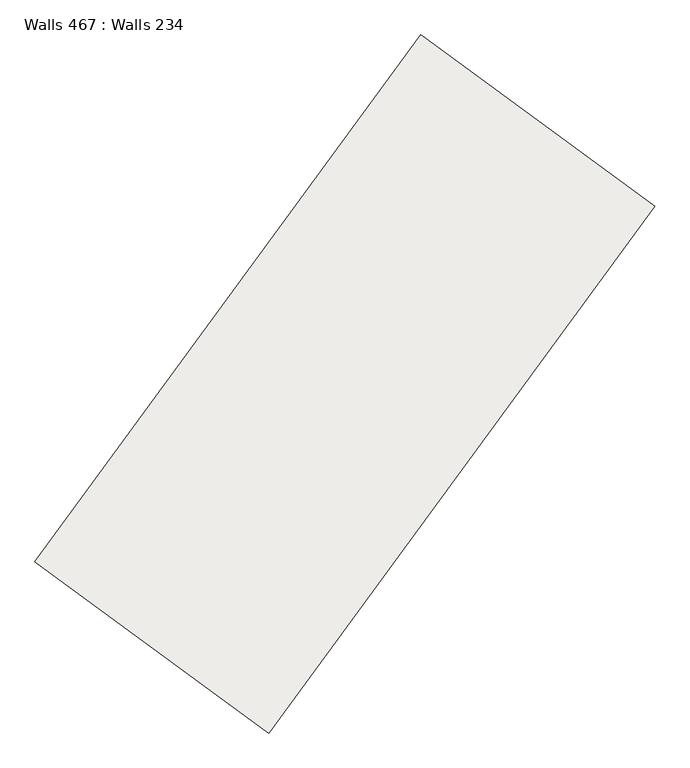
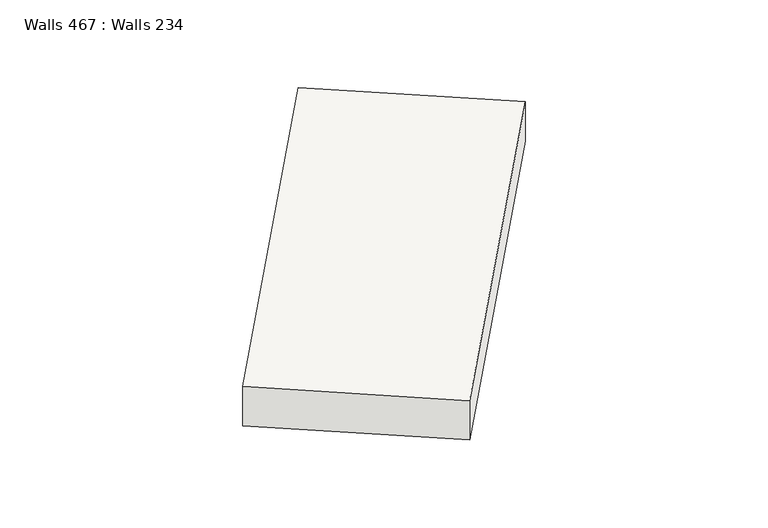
"""IFC4 building model written with IfcOpenShell, lengths in millimetres: slab geometry, Walls 467 : Walls 234."""

from ifc_helpers import new_model, si_unit, frame, origin, place, context, project, spatial, polyline, outline, extrude, source, transform, mapped, element, save


def walls_467_walls_234_0f14b235(model_context):
    return source(origin(), model_context, "Body", "SweptSolid", [
        extrude(outline(polyline([(-400.0, 0.0), (400.0, 0.0), (287.8, -8570.0), (-512.2, -8570.0), (-400.0, 0.0)])), frame((455101.5352188, 339485.6251786, 646548.0), z_axis=(-0.8067016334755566, 0.5909589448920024, 0.0), x_axis=(0.0, 0.0, 1.0)), (0.0, 0.0, 1.0), 3800.0),
    ])


if __name__ == "__main__":
    model = new_model("IFC4")
    model_context = context("Model", 3, world=origin())
    ifc_project = project(units=[si_unit("LENGTHUNIT", "METRE", prefix="MILLI")], contexts=[model_context])
    site = spatial("IfcSite", under=ifc_project)
    building = spatial("IfcBuilding", under=site)
    placement = place(None, origin())
    walls_467_walls_234_shape = walls_467_walls_234_0f14b235(model_context)
    element("IfcSlab", 1, ObjectType="Walls 467 : Walls 234", at=placement, inside=building, context=model_context, shape_type="MappedRepresentation", body=[
        mapped(walls_467_walls_234_shape, transform((0.0, 0.0, 0.0), x_axis=(1.0, 0.0, 0.0), y_axis=(0.0, 1.0, 0.0), z_axis=(0.0, 0.0, 1.0))),
    ])
    save(model, "model.ifc")
